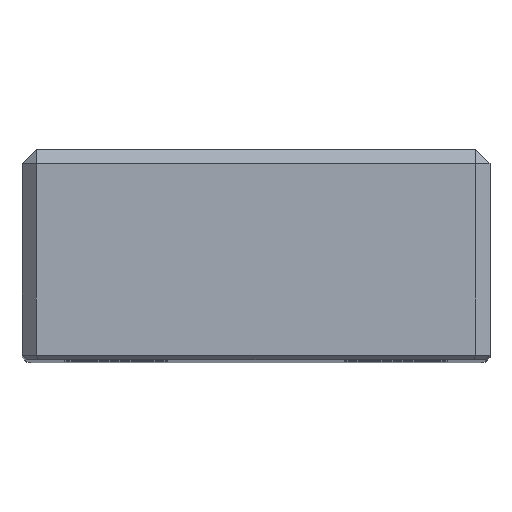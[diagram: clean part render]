
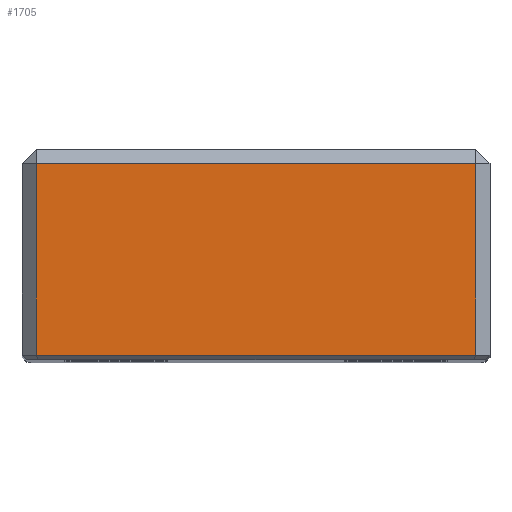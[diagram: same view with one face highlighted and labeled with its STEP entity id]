
A CAD part, top view. The second image highlights one B-rep face of the part: STEP entity #1705.
In plain terms, the highlighted planar face has unit normal (0, 0, 1).
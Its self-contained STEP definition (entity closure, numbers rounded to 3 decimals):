
#220=VERTEX_POINT(' ',#221);
#221=CARTESIAN_POINT('',(47.,-3.,0.));
#222=VERTEX_POINT(' ',#223);
#223=CARTESIAN_POINT('',(-47.,-3.,0.));
#246=VERTEX_POINT(' ',#247);
#247=CARTESIAN_POINT('',(47.,-44.,0.));
#250=VERTEX_POINT(' ',#251);
#251=CARTESIAN_POINT('',(-47.,-44.,0.));
#719=LINE('',#720,#721);
#720=CARTESIAN_POINT('',(-66.971,-3.,0.));
#721=VECTOR('',#722,1.);
#722=DIRECTION('',(1.,0.,0.));
#723=EDGE_CURVE(' ',#222,#220,#719,.T.);
#836=LINE('',#837,#838);
#837=CARTESIAN_POINT('',(47.,13.971,0.));
#838=VECTOR('',#839,1.);
#839=DIRECTION('',(0.,-1.,0.));
#840=EDGE_CURVE(' ',#220,#246,#836,.T.);
#851=LINE('',#852,#853);
#852=CARTESIAN_POINT('',(52.243,-44.,0.));
#853=VECTOR('',#854,1.);
#854=DIRECTION('',(-1.,0.,0.));
#855=EDGE_CURVE(' ',#246,#250,#851,.T.);
#856=LINE('',#857,#858);
#857=CARTESIAN_POINT('',(-47.,-61.971,0.));
#858=VECTOR('',#859,1.);
#859=DIRECTION('',(0.,1.,0.));
#860=EDGE_CURVE(' ',#250,#222,#856,.T.);
#1694=ORIENTED_EDGE('',*,*,#855,.F.);
#1695=ORIENTED_EDGE('',*,*,#840,.F.);
#1696=ORIENTED_EDGE('',*,*,#723,.F.);
#1697=ORIENTED_EDGE('',*,*,#860,.F.);
#1698=EDGE_LOOP('',(#1694,#1695,#1696,#1697));
#1699=FACE_OUTER_BOUND('',#1698,.T.);
#1700=PLANE('',#1701);
#1701=AXIS2_PLACEMENT_3D('',#1702,#1703,#1704);
#1702=CARTESIAN_POINT('',(50.,0.,0.));
#1703=DIRECTION('',(0.,0.,1.));
#1704=DIRECTION('',(-1.,0.,0.));
#1705=ADVANCED_FACE('',(#1699),#1700,.T.);
